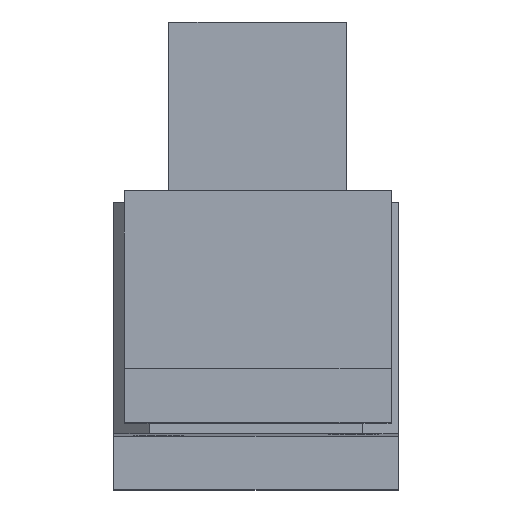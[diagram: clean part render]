
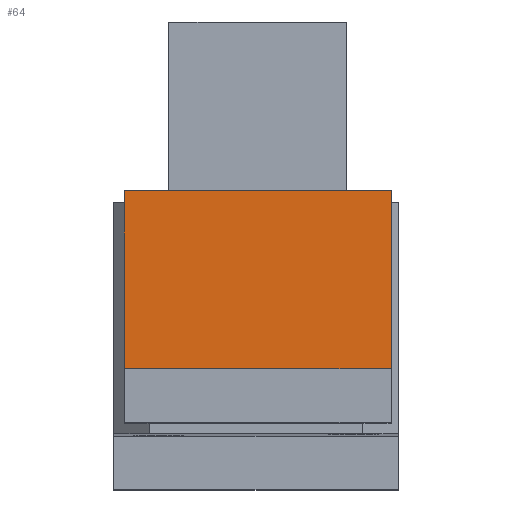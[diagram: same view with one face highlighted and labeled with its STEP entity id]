
A CAD part, top view. The second image highlights one B-rep face of the part: STEP entity #64.
In plain terms, the highlighted planar face has unit normal (0, 0, 1).
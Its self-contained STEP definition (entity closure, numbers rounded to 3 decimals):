
#64=ADVANCED_FACE('',(#352),#351,.F.);
#351=PLANE('',#845);
#352=FACE_OUTER_BOUND('',#846,.T.);
#842=CARTESIAN_POINT('',(14.6,-10.4,89.));
#843=DIRECTION('',(0.,0.,-1.));
#844=DIRECTION('',(-1.,0.,0.));
#845=AXIS2_PLACEMENT_3D('',#842,#843,#844);
#846=EDGE_LOOP('',(#1206,#1207,#1208,#1209));
#1206=ORIENTED_EDGE('',*,*,#1430,.T.);
#1207=ORIENTED_EDGE('',*,*,#1365,.F.);
#1208=ORIENTED_EDGE('',*,*,#1362,.F.);
#1209=ORIENTED_EDGE('',*,*,#1442,.T.);
#1362=EDGE_CURVE('',#1556,#1563,#1564,.T.);
#1365=EDGE_CURVE('',#1563,#1576,#1583,.T.);
#1430=EDGE_CURVE('',#2028,#1576,#2029,.T.);
#1442=EDGE_CURVE('',#1556,#2028,#2105,.T.);
#1556=VERTEX_POINT('',#2465);
#1563=VERTEX_POINT('',#2469);
#1564=LINE('',#2470,#2471);
#1576=VERTEX_POINT('',#2476);
#1583=LINE('',#2480,#2481);
#2028=VERTEX_POINT('',#2760);
#2029=LINE('',#2761,#2762);
#2105=LINE('',#2801,#2802);
#2465=CARTESIAN_POINT('',(-1.9,-9.4,89.));
#2469=CARTESIAN_POINT('',(-1.9,0.6,89.));
#2470=CARTESIAN_POINT('',(-1.9,-9.4,89.));
#2471=VECTOR('',#2472,10.);
#2472=DIRECTION('',(0.,1.,0.));
#2476=CARTESIAN_POINT('',(13.1,0.6,89.));
#2480=CARTESIAN_POINT('',(-1.9,0.6,89.));
#2481=VECTOR('',#2482,15.);
#2482=DIRECTION('',(1.,0.,0.));
#2760=CARTESIAN_POINT('',(13.1,-9.4,89.));
#2761=CARTESIAN_POINT('',(13.1,-9.4,89.));
#2762=VECTOR('',#2763,10.);
#2763=DIRECTION('',(0.,1.,0.));
#2801=CARTESIAN_POINT('',(-1.9,-9.4,89.));
#2802=VECTOR('',#2803,15.);
#2803=DIRECTION('',(1.,0.,0.));
